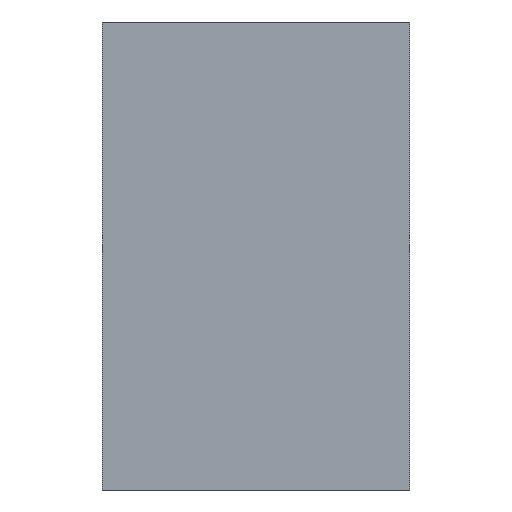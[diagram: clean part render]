
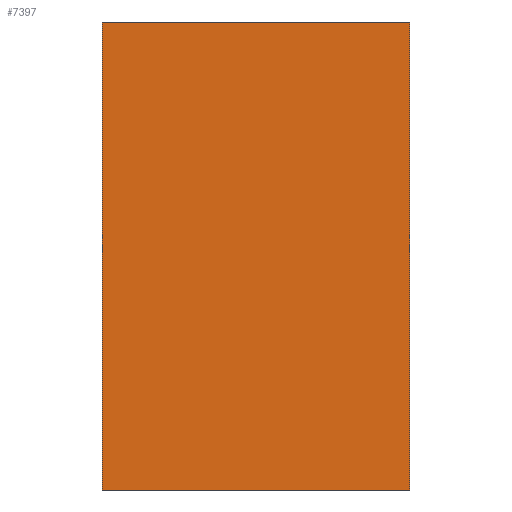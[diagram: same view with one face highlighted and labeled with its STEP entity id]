
A CAD part, left-side view. The second image highlights one B-rep face of the part: STEP entity #7397.
In plain terms, the highlighted planar face has unit normal (-1, 0, 0).
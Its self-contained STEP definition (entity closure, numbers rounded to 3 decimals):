
#7155=DIRECTION('',(0.,1.,0.));
#7156=VECTOR('',#7155,1305.699);
#7157=CARTESIAN_POINT('',(-924.47,-97.699,1838.));
#7158=LINE('',#7157,#7156);
#7215=DIRECTION('',(0.,1.,0.));
#7216=VECTOR('',#7215,1305.699);
#7217=CARTESIAN_POINT('',(-924.47,-97.699,-152.));
#7218=LINE('',#7217,#7216);
#7219=DIRECTION('',(0.,0.,1.));
#7220=VECTOR('',#7219,1990.);
#7221=CARTESIAN_POINT('',(-924.47,1208.,-152.));
#7222=LINE('',#7221,#7220);
#7231=DIRECTION('',(0.,0.,1.));
#7232=VECTOR('',#7231,1990.);
#7233=CARTESIAN_POINT('',(-924.47,-97.699,-152.));
#7234=LINE('',#7233,#7232);
#7247=CARTESIAN_POINT('',(-924.47,-97.699,1838.));
#7248=VERTEX_POINT('',#7247);
#7249=CARTESIAN_POINT('',(-924.47,1208.,1838.));
#7250=VERTEX_POINT('',#7249);
#7271=CARTESIAN_POINT('',(-924.47,1208.,-152.));
#7272=VERTEX_POINT('',#7271);
#7273=CARTESIAN_POINT('',(-924.47,-97.699,-152.));
#7274=VERTEX_POINT('',#7273);
#7384=CARTESIAN_POINT('',(-924.47,1208.,1838.));
#7385=DIRECTION('',(-1.,0.,0.));
#7386=DIRECTION('',(0.,-1.,0.));
#7387=AXIS2_PLACEMENT_3D('',#7384,#7385,#7386);
#7388=PLANE('',#7387);
#7389=ORIENTED_EDGE('',*,*,#7284,.F.);
#7391=ORIENTED_EDGE('',*,*,#7390,.F.);
#7393=ORIENTED_EDGE('',*,*,#7392,.T.);
#7394=ORIENTED_EDGE('',*,*,#7377,.T.);
#7395=EDGE_LOOP('',(#7389,#7391,#7393,#7394));
#7396=FACE_OUTER_BOUND('',#7395,.F.);
#7284=EDGE_CURVE('',#7248,#7250,#7158,.T.);
#7377=EDGE_CURVE('',#7272,#7250,#7222,.T.);
#7390=EDGE_CURVE('',#7274,#7248,#7234,.T.);
#7392=EDGE_CURVE('',#7274,#7272,#7218,.T.);
#7397=ADVANCED_FACE('',(#7396),#7388,.T.);
